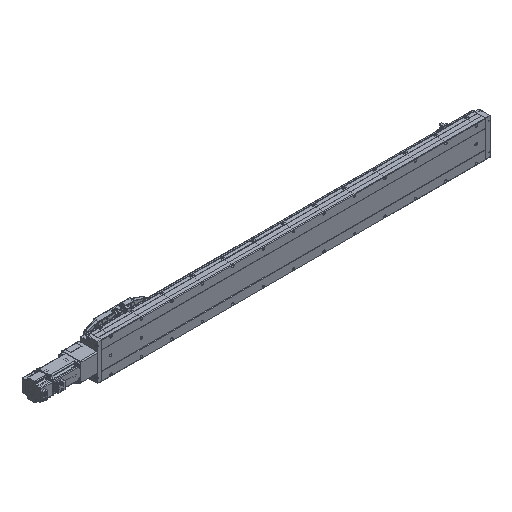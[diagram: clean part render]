
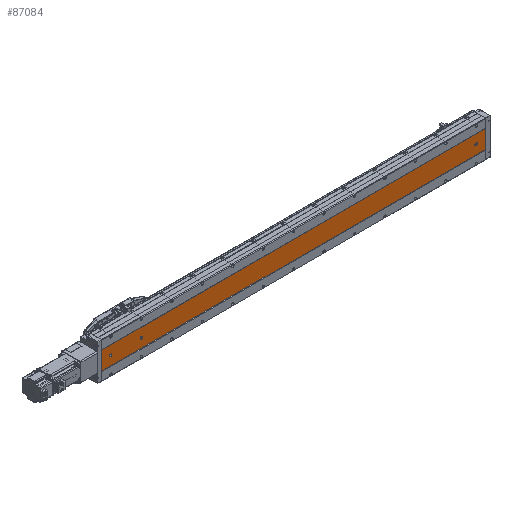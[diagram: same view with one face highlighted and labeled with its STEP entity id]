
A CAD part, isometric view. The second image highlights one B-rep face of the part: STEP entity #87084.
In plain terms, the highlighted planar face has unit normal (0, -1, 0).
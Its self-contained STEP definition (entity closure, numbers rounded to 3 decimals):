
#126 = DIRECTION ( 'NONE',  ( 0., 0., 1. ) ) ;
#323 = EDGE_CURVE ( 'NONE', #72745, #64055, #33139, .T. ) ;
#1442 = EDGE_CURVE ( 'NONE', #56810, #22368, #34091, .T. ) ;
#1953 = EDGE_CURVE ( 'NONE', #93732, #23824, #30490, .T. ) ;
#3735 = CARTESIAN_POINT ( 'NONE',  ( -43.392, -52.848, 30. ) ) ;
#5917 = VECTOR ( 'NONE', #34743, 1000. ) ;
#5977 = VECTOR ( 'NONE', #43137, 1000. ) ;
#5989 = PLANE ( 'NONE',  #54139 ) ;
#7364 = DIRECTION ( 'NONE',  ( 0., 1., 0. ) ) ;
#9306 = EDGE_CURVE ( 'NONE', #64055, #19809, #25157, .T. ) ;
#9744 = DIRECTION ( 'NONE',  ( 0., 1., 0. ) ) ;
#9867 = EDGE_CURVE ( 'NONE', #90841, #88853, #80363, .T. ) ;
#13299 = CARTESIAN_POINT ( 'NONE',  ( -36.392, -52.848, 32. ) ) ;
#13680 = VERTEX_POINT ( 'NONE', #24703 ) ;
#15303 = CARTESIAN_POINT ( 'NONE',  ( -39.892, -52.848, 1234.5 ) ) ;
#15361 = VECTOR ( 'NONE', #56646, 1000. ) ;
#16322 = ORIENTED_EDGE ( 'NONE', *, *, #29601, .T. ) ;
#19743 = ORIENTED_EDGE ( 'NONE', *, *, #49832, .T. ) ;
#19809 = VERTEX_POINT ( 'NONE', #13299 ) ;
#22368 = VERTEX_POINT ( 'NONE', #86787 ) ;
#23033 = CARTESIAN_POINT ( 'NONE',  ( -9.892, -52.848, 0. ) ) ;
#23507 = VERTEX_POINT ( 'NONE', #73331 ) ;
#23824 = VERTEX_POINT ( 'NONE', #15303 ) ;
#24697 = EDGE_CURVE ( 'NONE', #23824, #93732, #66674, .T. ) ;
#24703 = CARTESIAN_POINT ( 'NONE',  ( -69.892, -52.848, 1261. ) ) ;
#24862 = CARTESIAN_POINT ( 'NONE',  ( -69.892, -52.848, 0. ) ) ;
#25157 = CIRCLE ( 'NONE', #30074, 3.5 ) ;
#25974 = LINE ( 'NONE', #87115, #5917 ) ;
#26660 = VERTEX_POINT ( 'NONE', #38032 ) ;
#26819 = AXIS2_PLACEMENT_3D ( 'NONE', #54031, #60563, #91872 ) ;
#26895 = EDGE_CURVE ( 'NONE', #22368, #56810, #47404, .T. ) ;
#27368 = ORIENTED_EDGE ( 'NONE', *, *, #24697, .T. ) ;
#29423 = EDGE_LOOP ( 'NONE', ( #65018, #69056, #16322, #56972, #79241 ) ) ;
#29601 = EDGE_CURVE ( 'NONE', #19809, #26660, #43484, .T. ) ;
#29977 = FACE_BOUND ( 'NONE', #35745, .T. ) ;
#30074 = AXIS2_PLACEMENT_3D ( 'NONE', #92188, #52308, #91853 ) ;
#30490 = CIRCLE ( 'NONE', #85028, 3.5 ) ;
#31531 = DIRECTION ( 'NONE',  ( 0., 0., 1. ) ) ;
#31790 = DIRECTION ( 'NONE',  ( 0., 0., 1. ) ) ;
#32884 = DIRECTION ( 'NONE',  ( 0., 1., 0. ) ) ;
#33139 = LINE ( 'NONE', #72806, #5977 ) ;
#34091 = CIRCLE ( 'NONE', #70457, 3.5 ) ;
#34743 = DIRECTION ( 'NONE',  ( 1., 0., 0. ) ) ;
#35745 = EDGE_LOOP ( 'NONE', ( #84809, #27368 ) ) ;
#36019 = ORIENTED_EDGE ( 'NONE', *, *, #93739, .F. ) ;
#36176 = AXIS2_PLACEMENT_3D ( 'NONE', #81818, #43984, #74296 ) ;
#36345 = DIRECTION ( 'NONE',  ( 0., 0., 1. ) ) ;
#36437 = VECTOR ( 'NONE', #40320, 1000. ) ;
#38032 = CARTESIAN_POINT ( 'NONE',  ( -36.392, -52.848, 30. ) ) ;
#38425 = CARTESIAN_POINT ( 'NONE',  ( -69.892, -52.848, 0. ) ) ;
#39250 = VERTEX_POINT ( 'NONE', #76525 ) ;
#40320 = DIRECTION ( 'NONE',  ( 0., 0., -1. ) ) ;
#41721 = DIRECTION ( 'NONE',  ( 0., 0., 1. ) ) ;
#42337 = AXIS2_PLACEMENT_3D ( 'NONE', #75995, #9744, #31531 ) ;
#42469 = CARTESIAN_POINT ( 'NONE',  ( -69.892, -52.848, 1261. ) ) ;
#42879 = CARTESIAN_POINT ( 'NONE',  ( -69.892, -52.848, 1261. ) ) ;
#43137 = DIRECTION ( 'NONE',  ( 0., 0., 1. ) ) ;
#43484 = LINE ( 'NONE', #53154, #36437 ) ;
#43984 = DIRECTION ( 'NONE',  ( 0., 1., 0. ) ) ;
#47404 = CIRCLE ( 'NONE', #36176, 3.5 ) ;
#47641 = FACE_BOUND ( 'NONE', #97212, .T. ) ;
#49533 = CARTESIAN_POINT ( 'NONE',  ( -39.892, -52.848, 1227.5 ) ) ;
#49832 = EDGE_CURVE ( 'NONE', #13680, #90841, #89598, .T. ) ;
#50905 = AXIS2_PLACEMENT_3D ( 'NONE', #97638, #7364, #126 ) ;
#52308 = DIRECTION ( 'NONE',  ( 0., 1., 0. ) ) ;
#52379 = FACE_OUTER_BOUND ( 'NONE', #69839, .T. ) ;
#53154 = CARTESIAN_POINT ( 'NONE',  ( -36.392, -52.848, 1261. ) ) ;
#54031 = CARTESIAN_POINT ( 'NONE',  ( -39.892, -52.848, 30. ) ) ;
#54139 = AXIS2_PLACEMENT_3D ( 'NONE', #42879, #96246, #36345 ) ;
#56441 = CIRCLE ( 'NONE', #26819, 3.5 ) ;
#56646 = DIRECTION ( 'NONE',  ( 0., 0., -1. ) ) ;
#56810 = VERTEX_POINT ( 'NONE', #88836 ) ;
#56972 = ORIENTED_EDGE ( 'NONE', *, *, #66481, .T. ) ;
#60350 = VECTOR ( 'NONE', #62065, 1000. ) ;
#60563 = DIRECTION ( 'NONE',  ( 0., 1., 0. ) ) ;
#61071 = CARTESIAN_POINT ( 'NONE',  ( -9.892, -52.848, 1261. ) ) ;
#62065 = DIRECTION ( 'NONE',  ( 1., 0., 0. ) ) ;
#64055 = VERTEX_POINT ( 'NONE', #96540 ) ;
#65018 = ORIENTED_EDGE ( 'NONE', *, *, #323, .T. ) ;
#66481 = EDGE_CURVE ( 'NONE', #26660, #39250, #79975, .T. ) ;
#66674 = CIRCLE ( 'NONE', #42337, 3.5 ) ;
#67659 = FACE_BOUND ( 'NONE', #29423, .T. ) ;
#68530 = VECTOR ( 'NONE', #68650, 1000. ) ;
#68650 = DIRECTION ( 'NONE',  ( 0., 0., -1. ) ) ;
#69056 = ORIENTED_EDGE ( 'NONE', *, *, #9306, .T. ) ;
#69839 = EDGE_LOOP ( 'NONE', ( #90626, #88066, #36019, #19743 ) ) ;
#70457 = AXIS2_PLACEMENT_3D ( 'NONE', #77967, #32884, #41721 ) ;
#72745 = VERTEX_POINT ( 'NONE', #3735 ) ;
#72806 = CARTESIAN_POINT ( 'NONE',  ( -43.392, -52.848, 1261. ) ) ;
#73331 = CARTESIAN_POINT ( 'NONE',  ( -9.892, -52.848, 1261. ) ) ;
#74296 = DIRECTION ( 'NONE',  ( 0., 0., 1. ) ) ;
#75995 = CARTESIAN_POINT ( 'NONE',  ( -39.892, -52.848, 1231. ) ) ;
#76525 = CARTESIAN_POINT ( 'NONE',  ( -39.892, -52.848, 26.5 ) ) ;
#76746 = EDGE_CURVE ( 'NONE', #23507, #88853, #94424, .T. ) ;
#76882 = DIRECTION ( 'NONE',  ( 0., 1., 0. ) ) ;
#77967 = CARTESIAN_POINT ( 'NONE',  ( -39.892, -52.848, 1131. ) ) ;
#79241 = ORIENTED_EDGE ( 'NONE', *, *, #95106, .T. ) ;
#79975 = CIRCLE ( 'NONE', #50905, 3.5 ) ;
#80363 = LINE ( 'NONE', #38425, #60350 ) ;
#81818 = CARTESIAN_POINT ( 'NONE',  ( -39.892, -52.848, 1131. ) ) ;
#84809 = ORIENTED_EDGE ( 'NONE', *, *, #1953, .T. ) ;
#84817 = CARTESIAN_POINT ( 'NONE',  ( -39.892, -52.848, 1231. ) ) ;
#85028 = AXIS2_PLACEMENT_3D ( 'NONE', #84817, #76882, #31790 ) ;
#86787 = CARTESIAN_POINT ( 'NONE',  ( -39.892, -52.848, 1134.5 ) ) ;
#87084 = ADVANCED_FACE ( 'NONE', ( #67659, #47641, #29977, #52379 ), #5989, .F. ) ;
#87115 = CARTESIAN_POINT ( 'NONE',  ( -69.892, -52.848, 1261. ) ) ;
#88066 = ORIENTED_EDGE ( 'NONE', *, *, #76746, .F. ) ;
#88683 = ORIENTED_EDGE ( 'NONE', *, *, #1442, .T. ) ;
#88836 = CARTESIAN_POINT ( 'NONE',  ( -39.892, -52.848, 1127.5 ) ) ;
#88853 = VERTEX_POINT ( 'NONE', #23033 ) ;
#89229 = ORIENTED_EDGE ( 'NONE', *, *, #26895, .T. ) ;
#89598 = LINE ( 'NONE', #42469, #15361 ) ;
#90626 = ORIENTED_EDGE ( 'NONE', *, *, #9867, .T. ) ;
#90841 = VERTEX_POINT ( 'NONE', #24862 ) ;
#91853 = DIRECTION ( 'NONE',  ( 0., 0., 1. ) ) ;
#91872 = DIRECTION ( 'NONE',  ( 0., 0., 1. ) ) ;
#92188 = CARTESIAN_POINT ( 'NONE',  ( -39.892, -52.848, 32. ) ) ;
#93732 = VERTEX_POINT ( 'NONE', #49533 ) ;
#93739 = EDGE_CURVE ( 'NONE', #13680, #23507, #25974, .T. ) ;
#94424 = LINE ( 'NONE', #61071, #68530 ) ;
#95106 = EDGE_CURVE ( 'NONE', #39250, #72745, #56441, .T. ) ;
#96246 = DIRECTION ( 'NONE',  ( 0., 1., 0. ) ) ;
#96540 = CARTESIAN_POINT ( 'NONE',  ( -43.392, -52.848, 32. ) ) ;
#97212 = EDGE_LOOP ( 'NONE', ( #88683, #89229 ) ) ;
#97638 = CARTESIAN_POINT ( 'NONE',  ( -39.892, -52.848, 30. ) ) ;
